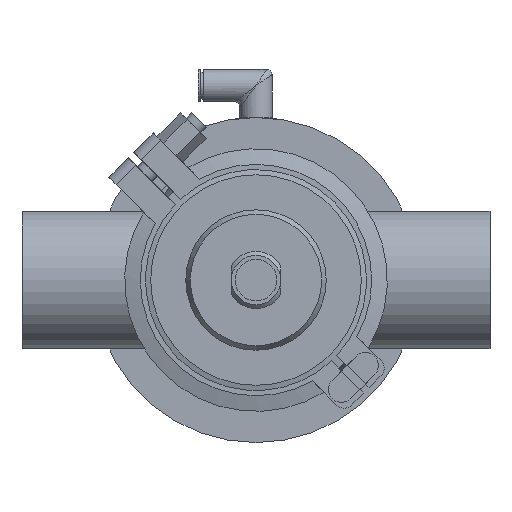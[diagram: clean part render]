
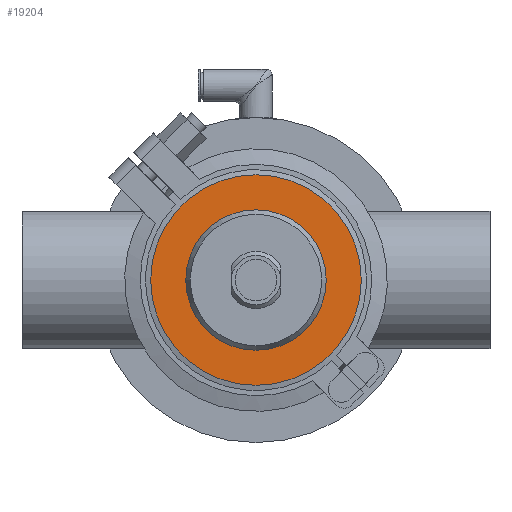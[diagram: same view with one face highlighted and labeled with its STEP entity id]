
A CAD part, front view. The second image highlights one B-rep face of the part: STEP entity #19204.
In plain terms, the highlighted planar face has unit normal (0, -1, 0).
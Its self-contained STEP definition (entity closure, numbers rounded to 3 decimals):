
#161 = CARTESIAN_POINT ( 'NONE',  ( 0., -13., 0. ) ) ;
#2910 = DIRECTION ( 'NONE',  ( 0., -1., 0. ) ) ;
#3363 = EDGE_CURVE ( 'NONE', #4022, #4022, #10335, .T. ) ;
#4022 = VERTEX_POINT ( 'NONE', #9243 ) ;
#4283 = AXIS2_PLACEMENT_3D ( 'NONE', #17866, #2910, #6130 ) ;
#4617 = AXIS2_PLACEMENT_3D ( 'NONE', #12028, #15347, #10349 ) ;
#5458 = ORIENTED_EDGE ( 'NONE', *, *, #12705, .F. ) ;
#6130 = DIRECTION ( 'NONE',  ( 0., 0., -1. ) ) ;
#6330 = PLANE ( 'NONE',  #4283 ) ;
#7992 = FACE_BOUND ( 'NONE', #10161, .T. ) ;
#9225 = CIRCLE ( 'NONE', #4617, 40.5 ) ;
#9243 = CARTESIAN_POINT ( 'NONE',  ( 0., -13., 27. ) ) ;
#9347 = FACE_OUTER_BOUND ( 'NONE', #19317, .T. ) ;
#10161 = EDGE_LOOP ( 'NONE', ( #19310 ) ) ;
#10335 = CIRCLE ( 'NONE', #14243, 27. ) ;
#10349 = DIRECTION ( 'NONE',  ( 0., 0., 1. ) ) ;
#12028 = CARTESIAN_POINT ( 'NONE',  ( 0., -13., 0. ) ) ;
#12248 = DIRECTION ( 'NONE',  ( 0., 0., 1. ) ) ;
#12705 = EDGE_CURVE ( 'NONE', #15878, #15878, #9225, .T. ) ;
#14243 = AXIS2_PLACEMENT_3D ( 'NONE', #161, #16989, #12248 ) ;
#15347 = DIRECTION ( 'NONE',  ( 0., 1., 0. ) ) ;
#15878 = VERTEX_POINT ( 'NONE', #19391 ) ;
#16989 = DIRECTION ( 'NONE',  ( 0., 1., 0. ) ) ;
#17866 = CARTESIAN_POINT ( 'NONE',  ( -40.5, -13., 0. ) ) ;
#19204 = ADVANCED_FACE ( 'NONE', ( #7992, #9347 ), #6330, .T. ) ;
#19310 = ORIENTED_EDGE ( 'NONE', *, *, #3363, .T. ) ;
#19317 = EDGE_LOOP ( 'NONE', ( #5458 ) ) ;
#19391 = CARTESIAN_POINT ( 'NONE',  ( 0., -13., 40.5 ) ) ;
